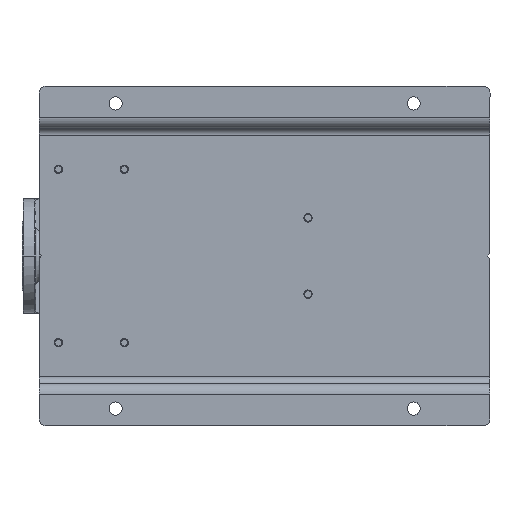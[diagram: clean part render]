
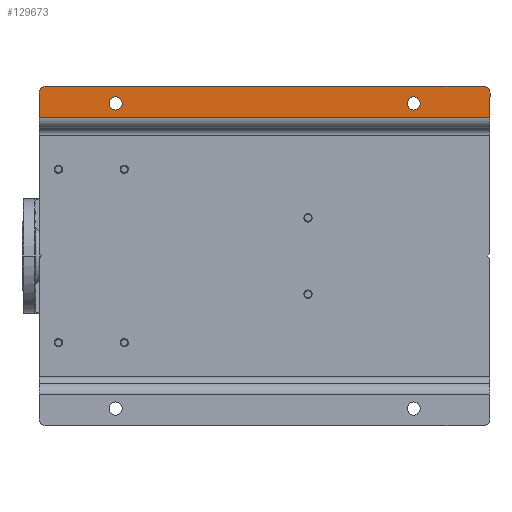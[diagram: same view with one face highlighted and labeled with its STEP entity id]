
A CAD part, front view. The second image highlights one B-rep face of the part: STEP entity #129673.
In plain terms, the highlighted planar face has unit normal (0, -1, 0).
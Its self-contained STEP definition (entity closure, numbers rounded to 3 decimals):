
#512 = DIRECTION ( 'NONE',  ( 0., 0., -1. ) ) ;
#691 = DIRECTION ( 'NONE',  ( 0., 0., -1. ) ) ;
#1349 = VERTEX_POINT ( 'NONE', #75847 ) ;
#1673 = CIRCLE ( 'NONE', #146357, 10. ) ;
#1856 = CARTESIAN_POINT ( 'NONE',  ( 429., 0., -650. ) ) ;
#2485 = LINE ( 'NONE', #106206, #170709 ) ;
#3696 = CARTESIAN_POINT ( 'NONE',  ( 474.5, 0., -540. ) ) ;
#9748 = EDGE_CURVE ( 'NONE', #167929, #23866, #110675, .T. ) ;
#12072 = EDGE_CURVE ( 'NONE', #1349, #140310, #119009, .T. ) ;
#12617 = DIRECTION ( 'NONE',  ( 0., 0., -1. ) ) ;
#18706 = EDGE_LOOP ( 'NONE', ( #126521, #65646 ) ) ;
#22039 = ORIENTED_EDGE ( 'NONE', *, *, #39955, .T. ) ;
#22449 = VECTOR ( 'NONE', #110938, 1000. ) ;
#23866 = VERTEX_POINT ( 'NONE', #3696 ) ;
#27453 = DIRECTION ( 'NONE',  ( 0., 0., -1. ) ) ;
#28298 = DIRECTION ( 'NONE',  ( 0., -1., 0. ) ) ;
#28606 = CARTESIAN_POINT ( 'NONE',  ( 465., 0., -540. ) ) ;
#31554 = DIRECTION ( 'NONE',  ( 0., 0., -1. ) ) ;
#33183 = DIRECTION ( 'NONE',  ( 0., 0., -1. ) ) ;
#34334 = AXIS2_PLACEMENT_3D ( 'NONE', #28606, #59764, #12617 ) ;
#38031 = VECTOR ( 'NONE', #105082, 1000. ) ;
#39955 = EDGE_CURVE ( 'NONE', #169809, #123960, #142047, .T. ) ;
#45255 = DIRECTION ( 'NONE',  ( 0., 0., -1. ) ) ;
#46682 = AXIS2_PLACEMENT_3D ( 'NONE', #140708, #152997, #27453 ) ;
#47131 = AXIS2_PLACEMENT_3D ( 'NONE', #1856, #28298, #45255 ) ;
#48704 = VERTEX_POINT ( 'NONE', #61320 ) ;
#54369 = EDGE_LOOP ( 'NONE', ( #90294, #22039, #182046, #167111, #64276, #128547 ) ) ;
#57172 = CARTESIAN_POINT ( 'NONE',  ( 474.5, 0., -110. ) ) ;
#59661 = CARTESIAN_POINT ( 'NONE',  ( 480., 0., -10. ) ) ;
#59764 = DIRECTION ( 'NONE',  ( 0., 1., 0. ) ) ;
#61320 = CARTESIAN_POINT ( 'NONE',  ( 480., 0., 0. ) ) ;
#61730 = CARTESIAN_POINT ( 'NONE',  ( 429., 0., 0. ) ) ;
#61975 = EDGE_CURVE ( 'NONE', #172878, #68375, #94595, .T. ) ;
#64276 = ORIENTED_EDGE ( 'NONE', *, *, #159273, .T. ) ;
#65646 = ORIENTED_EDGE ( 'NONE', *, *, #126448, .T. ) ;
#68375 = VERTEX_POINT ( 'NONE', #154521 ) ;
#68933 = FACE_BOUND ( 'NONE', #18706, .T. ) ;
#72483 = CARTESIAN_POINT ( 'NONE',  ( 480., 0., -650. ) ) ;
#73336 = CARTESIAN_POINT ( 'NONE',  ( 465., 0., -540. ) ) ;
#73620 = EDGE_CURVE ( 'NONE', #75755, #48704, #1673, .T. ) ;
#75755 = VERTEX_POINT ( 'NONE', #93474 ) ;
#75847 = CARTESIAN_POINT ( 'NONE',  ( 455.5, 0., -110. ) ) ;
#78570 = LINE ( 'NONE', #135186, #151573 ) ;
#83106 = FACE_BOUND ( 'NONE', #112463, .T. ) ;
#84957 = PLANE ( 'NONE',  #47131 ) ;
#87946 = DIRECTION ( 'NONE',  ( 0., -1., 0. ) ) ;
#90294 = ORIENTED_EDGE ( 'NONE', *, *, #164615, .F. ) ;
#93474 = CARTESIAN_POINT ( 'NONE',  ( 490., 0., -10. ) ) ;
#94595 = CIRCLE ( 'NONE', #100641, 10. ) ;
#100641 = AXIS2_PLACEMENT_3D ( 'NONE', #129766, #172254, #512 ) ;
#101662 = DIRECTION ( 'NONE',  ( 0., 1., 0. ) ) ;
#103252 = DIRECTION ( 'NONE',  ( 0., 1., 0. ) ) ;
#105082 = DIRECTION ( 'NONE',  ( 1., 0., 0. ) ) ;
#106206 = CARTESIAN_POINT ( 'NONE',  ( 429., 0., -650. ) ) ;
#110675 = CIRCLE ( 'NONE', #134809, 9.5 ) ;
#110938 = DIRECTION ( 'NONE',  ( 0., 0., -1. ) ) ;
#112463 = EDGE_LOOP ( 'NONE', ( #179729, #121076 ) ) ;
#115672 = CIRCLE ( 'NONE', #34334, 9.5 ) ;
#119009 = CIRCLE ( 'NONE', #46682, 9.5 ) ;
#121076 = ORIENTED_EDGE ( 'NONE', *, *, #129399, .T. ) ;
#122275 = CIRCLE ( 'NONE', #155420, 9.5 ) ;
#123960 = VERTEX_POINT ( 'NONE', #154861 ) ;
#126448 = EDGE_CURVE ( 'NONE', #23866, #167929, #115672, .T. ) ;
#126521 = ORIENTED_EDGE ( 'NONE', *, *, #9748, .T. ) ;
#128547 = ORIENTED_EDGE ( 'NONE', *, *, #73620, .T. ) ;
#129399 = EDGE_CURVE ( 'NONE', #140310, #1349, #122275, .T. ) ;
#129673 = ADVANCED_FACE ( 'NONE', ( #83106, #68933, #184015 ), #84957, .T. ) ;
#129766 = CARTESIAN_POINT ( 'NONE',  ( 480., 0., -640. ) ) ;
#134809 = AXIS2_PLACEMENT_3D ( 'NONE', #73336, #101662, #691 ) ;
#135186 = CARTESIAN_POINT ( 'NONE',  ( 490., 0., -650. ) ) ;
#140310 = VERTEX_POINT ( 'NONE', #57172 ) ;
#140708 = CARTESIAN_POINT ( 'NONE',  ( 465., 0., -110. ) ) ;
#142047 = LINE ( 'NONE', #154332, #22449 ) ;
#146357 = AXIS2_PLACEMENT_3D ( 'NONE', #59661, #87946, #33183 ) ;
#151573 = VECTOR ( 'NONE', #165379, 1000. ) ;
#152997 = DIRECTION ( 'NONE',  ( 0., 1., 0. ) ) ;
#154332 = CARTESIAN_POINT ( 'NONE',  ( 445., 0., -650. ) ) ;
#154521 = CARTESIAN_POINT ( 'NONE',  ( 490., 0., -640. ) ) ;
#154861 = CARTESIAN_POINT ( 'NONE',  ( 445., 0., -650. ) ) ;
#155420 = AXIS2_PLACEMENT_3D ( 'NONE', #174971, #103252, #31554 ) ;
#159273 = EDGE_CURVE ( 'NONE', #68375, #75755, #78570, .T. ) ;
#163585 = LINE ( 'NONE', #61730, #38031 ) ;
#163777 = DIRECTION ( 'NONE',  ( 1., 0., 0. ) ) ;
#164615 = EDGE_CURVE ( 'NONE', #169809, #48704, #163585, .T. ) ;
#165379 = DIRECTION ( 'NONE',  ( 0., 0., 1. ) ) ;
#167111 = ORIENTED_EDGE ( 'NONE', *, *, #61975, .T. ) ;
#167429 = EDGE_CURVE ( 'NONE', #123960, #172878, #2485, .T. ) ;
#167929 = VERTEX_POINT ( 'NONE', #177488 ) ;
#169809 = VERTEX_POINT ( 'NONE', #172913 ) ;
#170709 = VECTOR ( 'NONE', #163777, 1000. ) ;
#172254 = DIRECTION ( 'NONE',  ( 0., -1., 0. ) ) ;
#172878 = VERTEX_POINT ( 'NONE', #72483 ) ;
#172913 = CARTESIAN_POINT ( 'NONE',  ( 445., 0., 0. ) ) ;
#174971 = CARTESIAN_POINT ( 'NONE',  ( 465., 0., -110. ) ) ;
#177488 = CARTESIAN_POINT ( 'NONE',  ( 455.5, 0., -540. ) ) ;
#179729 = ORIENTED_EDGE ( 'NONE', *, *, #12072, .T. ) ;
#182046 = ORIENTED_EDGE ( 'NONE', *, *, #167429, .T. ) ;
#184015 = FACE_OUTER_BOUND ( 'NONE', #54369, .T. ) ;
